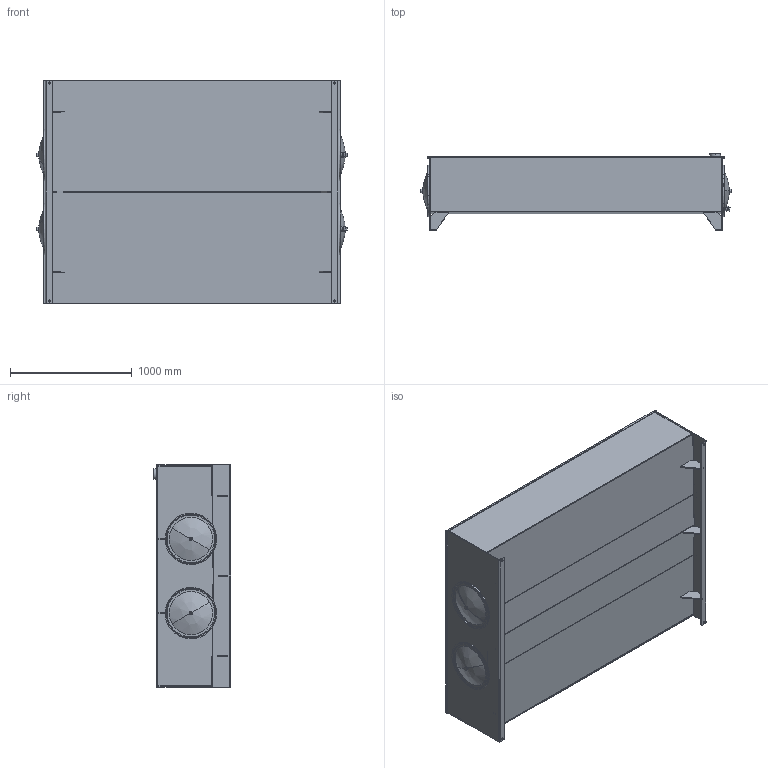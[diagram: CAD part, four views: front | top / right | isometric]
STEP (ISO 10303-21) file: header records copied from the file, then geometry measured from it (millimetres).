
FILE_DESCRIPTION (( 'STEP AP214' ), '1' );
FILE_NAME ('T2-400.STEP', '2026-04-16T11:12:14', ( '' ), ( '' ), 'SwSTEP 2.0', 'SolidWorks 2026', '' );
FILE_SCHEMA (( 'AUTOMOTIVE_DESIGN' ));
Length unit declared in the file: inch
Products named in the file (19): T2-400-BFL; DRAIN; CRUSH WASHER; T2-400-EA; T2-400-LD; T2-400-BDYA; 16.00 GASKET; T2-400; 16.00 END COVER WITH DRAIN; 16.00 END COVER; TL-ECD-16; 0.625 - 11 HEX BOLT; T2-400-GST; FILLER RISER; TL-EC-16; 0.625 - 11 BAFFLE NUT; T2-400-BDYB; T2-400-GST-CTR; T2-400-EB
Assembly tree (30 placements, depth 3):
  T2-400
    T2-400-LD
    T2-400-EA
    T2-400-EB
    T2-400-BDYA
    T2-400-BDYB  x2
    T2-400-BFL  x2
    T2-400-GST  x4
    T2-400-GST-CTR  x2
    FILLER RISER
    TL-ECD-16  x2
      16.00 GASKET
      CRUSH WASHER
      0.625 - 11 HEX BOLT
      0.625 - 11 BAFFLE NUT
      16.00 END COVER WITH DRAIN
      DRAIN
    TL-EC-16  x2
      16.00 END COVER
      16.00 GASKET
      CRUSH WASHER
      0.625 - 11 HEX BOLT
      0.625 - 11 BAFFLE NUT
Bounding box: 2547.61 x 635 x 1828.8 mm (x, y, z)
Volume: 120043436.5 mm3; surface area: 32145652.9 mm2
Topology: 39 solids, 39 shells, 459 faces, 1056 edges, 690 vertices
Faces by surface type: plane 257, cylinder 164, cone 20, bspline 16, torus 2
Entity records: 7857 total; most frequent: CARTESIAN_POINT 1500, DIRECTION 1270, ORIENTED_EDGE 1096, EDGE_CURVE 548, AXIS2_PLACEMENT_3D 474, VERTEX_POINT 354, LINE 322, VECTOR 322
